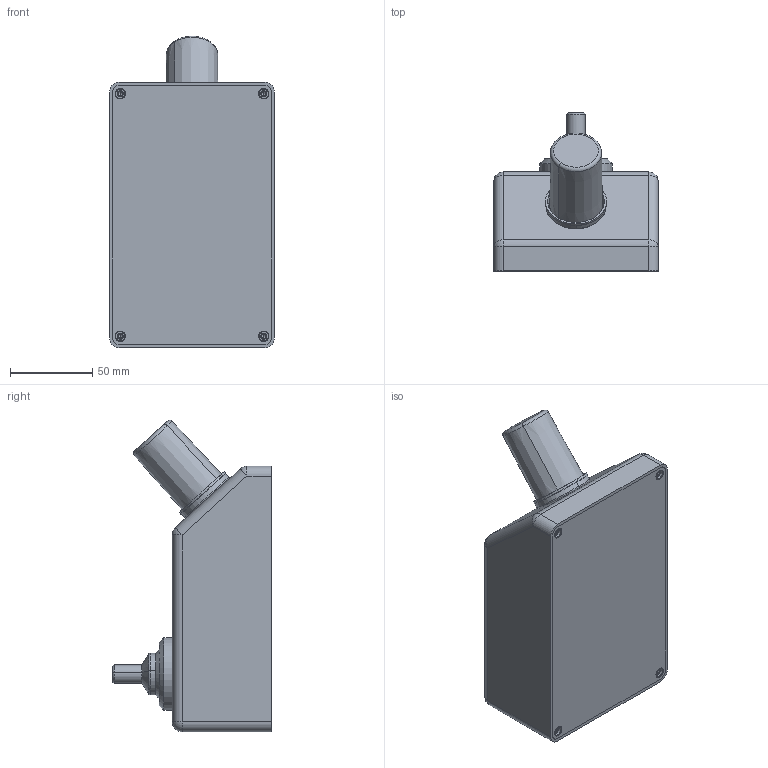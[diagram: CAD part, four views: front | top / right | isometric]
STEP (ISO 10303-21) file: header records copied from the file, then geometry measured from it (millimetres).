
FILE_DESCRIPTION (( 'STEP AP203' ), '1' );
FILE_NAME ('Öko-Böller_zusammenbau.STEP', '2020-12-15T00:55:33', ( '' ), ( '' ), 'SwSTEP 2.0', 'SolidWorks 2017', '' );
FILE_SCHEMA (( 'CONFIG_CONTROL_DESIGN' ));
Length unit declared in the file: millimetre
Products named in the file (9): Öko-Böller_zusammenbau; Gehäuseboden_Strapubox-3023-H-60-Pult; Elektrodenhalter_innen; Piezo-Zünder; Distanzring_Zünder; Elektrodenhalter_aussen; Gehäusedeckel_Strapubox-3023-H-60-Pult; Filmdose_Deckel; Filmdose
Assembly tree (8 placements, depth 2):
  Öko-Böller_zusammenbau
    Gehäusedeckel_Strapubox-3023-H-60-Pult
    Piezo-Zünder
    Distanzring_Zünder
    Filmdose_Deckel
    Elektrodenhalter_aussen
    Filmdose
    Gehäuseboden_Strapubox-3023-H-60-Pult
    Elektrodenhalter_innen
Bounding box: 100 x 96 x 188.87 mm (x, y, z)
Volume: 196759.4 mm3; surface area: 145666.6 mm2
Topology: 8 solids, 8 shells, 320 faces, 730 edges, 433 vertices
Faces by surface type: cylinder 146, cone 74, plane 70, torus 18, sphere 12
Entity records: 10181 total; most frequent: CARTESIAN_POINT 1828, DIRECTION 1724, ORIENTED_EDGE 1412, AXIS2_PLACEMENT_3D 715, EDGE_CURVE 706, VERTEX_POINT 433, EDGE_LOOP 389, CIRCLE 384
